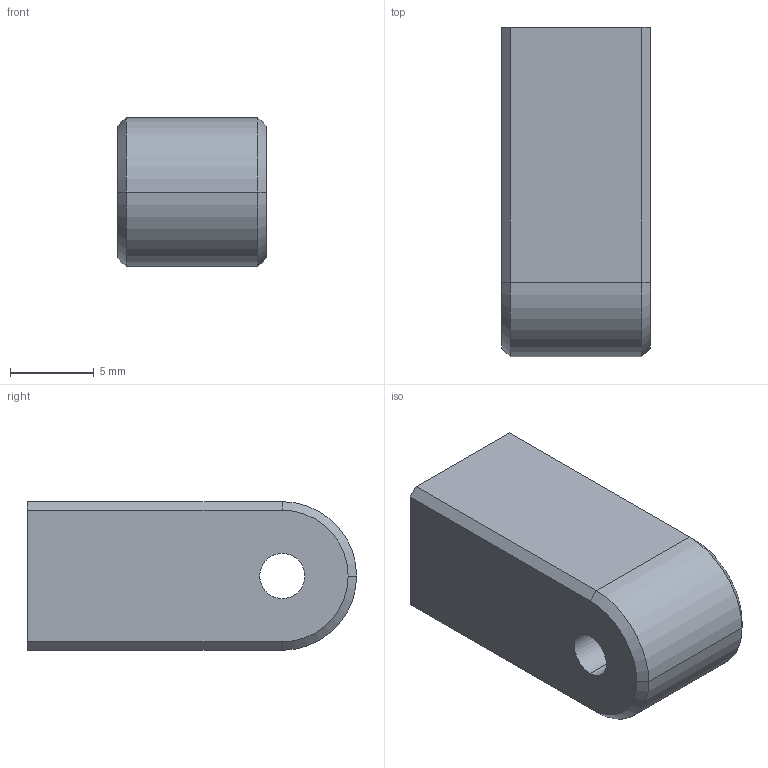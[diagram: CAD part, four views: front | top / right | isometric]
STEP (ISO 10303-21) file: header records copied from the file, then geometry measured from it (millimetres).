
FILE_DESCRIPTION (( 'STEP AP214' ), '1' );
FILE_NAME ('CLIP-30125.STEP', '2023-05-14T13:42:27', ( '' ), ( '' ), 'SwSTEP 2.0', 'SolidWorks 2021', '' );
FILE_SCHEMA (( 'AUTOMOTIVE_DESIGN' ));
Length unit declared in the file: inch
Products named in the file (1): CLIP-30125
Bounding box: 8.89 x 19.68 x 8.89 mm (x, y, z)
Volume: 1307.6 mm3; surface area: 969.5 mm2
Topology: 1 solids, 1 shells, 21 faces, 49 edges, 29 vertices
Faces by surface type: plane 9, cylinder 6, cone 6
Entity records: 677 total; most frequent: DIRECTION 107, CARTESIAN_POINT 98, ORIENTED_EDGE 94, EDGE_CURVE 47, AXIS2_PLACEMENT_3D 38, LINE 31, VECTOR 31, VERTEX_POINT 29
